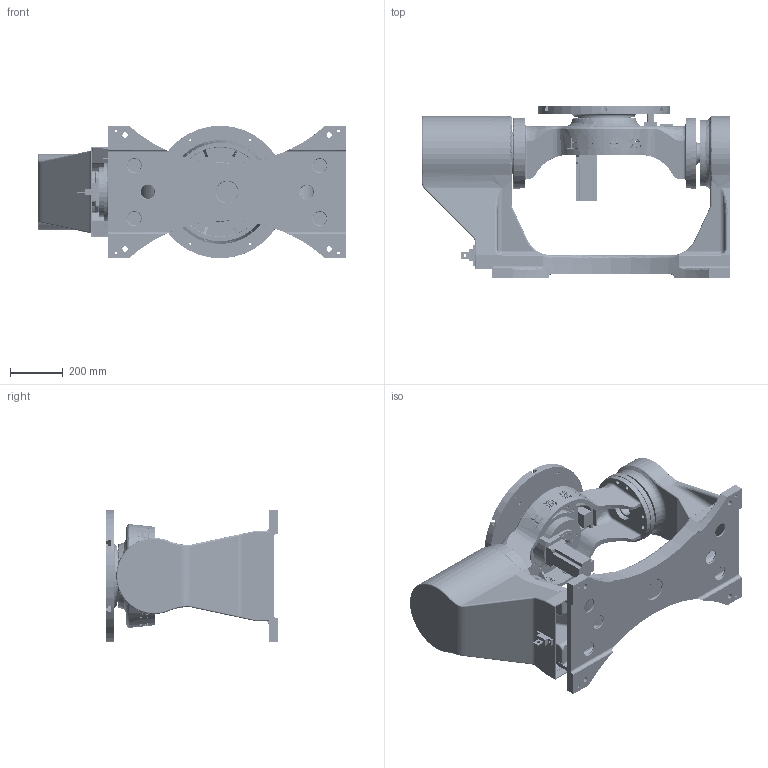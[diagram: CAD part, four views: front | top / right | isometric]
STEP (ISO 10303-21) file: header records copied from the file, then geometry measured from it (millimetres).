
FILE_DESCRIPTION(('CATIA V5 STEP Exchange','CAx-IF Rec.Pracs.--- Model Styling and Organization---1.5--- 2016-08-15','CAx-IF Rec.Pracs.---Supplemental Geometry---1.0---2011-11-01','CAx-IF Rec.Pracs.--- Composite Materials ---1.1---2010-07-15'),'2;1');
FILE_NAME('H:\2024-12-10-长沙U型变位机\参考\SY20220604-Ux-00.stp','2024-12-11T10:48:38+00:00',('none'),('none'),'CATIA Version 5-6 Release 2020','CATIA V5 STEP AP214 v1','none');
FILE_SCHEMA(('AUTOMOTIVE_DESIGN { 1 0 10303 214 1 1 1 1 }'));
Products named in the file (24): SY20220604-Ux-00; 50C-27C-FL; 驱动护罩; Part7; Part8; Part9; Product2; SY20220607-U-01; UCFC215轴承法兰0Y - 副本; BX80E; 零件2; KUKA-MG110-2.4kw; Copy (1) of 一轴MU200法兰; Part4; Part3; Part5; 3ucfc216d1_80_d1调心轴承B-R1-R11; 从动钣金封板0Y1; Product3; 备份 属于 复件 铸造二轴修改0Y^1; 27C; Part1; Part2; RV-27C
Assembly tree (26 placements, depth 4):
  SY20220604-Ux-00
    50C-27C-FL
    驱动护罩
    Part7
    Part8
    Part9
    Product2
      SY20220607-U-01
      UCFC215轴承法兰0Y - 副本
      BX80E
      零件2
      KUKA-MG110-2.4kw
      Copy (1) of 一轴MU200法兰
      Part4
      Part3  x4
      Part5
      3ucfc216d1_80_d1调心轴承B-R1-R11
      从动钣金封板0Y1
    Product3
      备份 属于 复件 铸造二轴修改0Y^1
      27C
        Part1
        Part2
        RV-27C
Bounding box: 1165 x 647.65 x 500 mm (x, y, z)
Volume: 44904734 mm3; surface area: 6244381 mm2
Topology: 35 solids, 60 shells, 5847 faces, 18205 edges, 12514 vertices
Faces by surface type: plane 3318, cylinder 1570, cone 434, torus 288, bspline 212, extrusion 16, sphere 9
Entity records: 233095 total; most frequent: CARTESIAN_POINT 83926, ORIENTED_EDGE 35750, DIRECTION 20972, EDGE_CURVE 18033, VERTEX_POINT 12478, AXIS2_PLACEMENT_3D 8555, VECTOR 8024, LINE 8008
